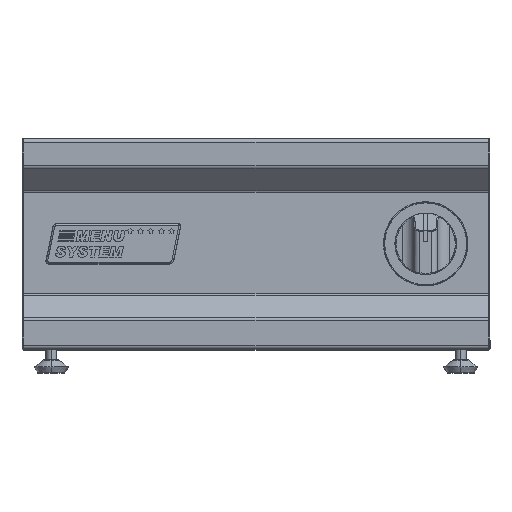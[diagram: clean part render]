
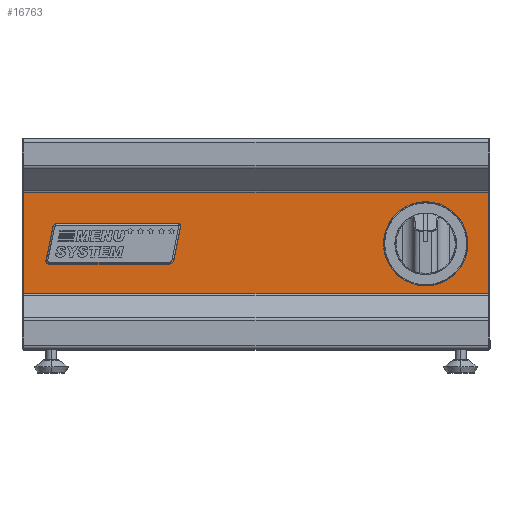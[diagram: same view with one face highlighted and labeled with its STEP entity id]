
A CAD part, top view. The second image highlights one B-rep face of the part: STEP entity #16763.
In plain terms, the highlighted planar face has unit normal (0, 0, 1).
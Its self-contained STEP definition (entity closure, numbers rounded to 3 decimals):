
#570 = CARTESIAN_POINT ( 'NONE',  ( -179.556, -104.75, 179.226 ) ) ;
#619 = CARTESIAN_POINT ( 'NONE',  ( 145., -53.99, 179.226 ) ) ;
#675 = CARTESIAN_POINT ( 'NONE',  ( -177.046, -107.26, 179.226 ) ) ;
#791 = ORIENTED_EDGE ( 'NONE', *, *, #4990, .T. ) ;
#1226 = VERTEX_POINT ( 'NONE', #15383 ) ;
#1230 = VERTEX_POINT ( 'NONE', #15213 ) ;
#1243 = VERTEX_POINT ( 'NONE', #15547 ) ;
#1252 = VERTEX_POINT ( 'NONE', #15581 ) ;
#1285 = VERTEX_POINT ( 'NONE', #15248 ) ;
#1347 = VERTEX_POINT ( 'NONE', #15311 ) ;
#1383 = VERTEX_POINT ( 'NONE', #15740 ) ;
#1412 = VERTEX_POINT ( 'NONE', #15787 ) ;
#1443 = VERTEX_POINT ( 'NONE', #15818 ) ;
#1475 = VERTEX_POINT ( 'NONE', #15854 ) ;
#1518 = VERTEX_POINT ( 'NONE', #15956 ) ;
#1825 = EDGE_LOOP ( 'NONE', ( #16303, #16302, #16309, #16297 ) ) ;
#1834 = EDGE_LOOP ( 'NONE', ( #16306, #16304 ) ) ;
#1839 = EDGE_LOOP ( 'NONE', ( #16344, #16342, #16336, #791, #16333, #16332, #16328, #16327, #16320 ) ) ;
#3533 = FACE_OUTER_BOUND ( 'NONE', #1825, .T. ) ;
#3537 = FACE_BOUND ( 'NONE', #1839, .T. ) ;
#3539 = AXIS2_PLACEMENT_3D ( 'NONE', #14604, #14605, #14606 ) ;
#3544 = FACE_BOUND ( 'NONE', #1834, .T. ) ;
#4906 = EDGE_CURVE ( 'NONE', #11687, #1252, #8319, .T. ) ;
#4918 = EDGE_CURVE ( 'NONE', #1518, #1285, #9487, .T. ) ;
#4964 = EDGE_CURVE ( 'NONE', #1475, #1226, #9757, .T. ) ;
#4966 = EDGE_CURVE ( 'NONE', #1285, #1243, #8234, .T. ) ;
#4982 = EDGE_CURVE ( 'NONE', #11725, #11687, #8264, .T. ) ;
#4990 = EDGE_CURVE ( 'NONE', #1243, #11725, #5850, .T. ) ;
#5042 = EDGE_CURVE ( 'NONE', #1252, #1383, #6042, .T. ) ;
#5047 = EDGE_CURVE ( 'NONE', #1412, #1518, #8387, .T. ) ;
#5173 = EDGE_CURVE ( 'NONE', #1383, #1443, #8212, .T. ) ;
#5207 = EDGE_CURVE ( 'NONE', #1475, #1347, #7368, .T. ) ;
#5227 = EDGE_CURVE ( 'NONE', #1443, #1412, #9019, .T. ) ;
#5243 = EDGE_CURVE ( 'NONE', #1230, #1347, #8913, .T. ) ;
#5259 = EDGE_CURVE ( 'NONE', #11704, #12671, #8354, .T. ) ;
#5270 = EDGE_CURVE ( 'NONE', #1230, #1226, #8709, .T. ) ;
#5274 = EDGE_CURVE ( 'NONE', #12671, #11704, #8307, .T. ) ;
#5542 = DIRECTION ( 'NONE',  ( 0.199, 0.98, 0. ) ) ;
#5819 = DIRECTION ( 'NONE',  ( -1., 0., 0. ) ) ;
#5848 = DIRECTION ( 'NONE',  ( -1., 0., 0. ) ) ;
#5849 = CARTESIAN_POINT ( 'NONE',  ( -638.706, -107.26, 179.226 ) ) ;
#5850 = LINE ( 'NONE', #5849, #17465 ) ;
#5884 = CARTESIAN_POINT ( 'NONE',  ( -179.505, -104.25, 179.226 ) ) ;
#5979 = DIRECTION ( 'NONE',  ( 0., 0., -1. ) ) ;
#6042 = LINE ( 'NONE', #5884, #17724 ) ;
#6120 = DIRECTION ( 'NONE',  ( -1., 0., 0. ) ) ;
#6124 = DIRECTION ( 'NONE',  ( 0., 0., -1. ) ) ;
#6128 = CARTESIAN_POINT ( 'NONE',  ( -177.046, -104.75, 179.226 ) ) ;
#6192 = CARTESIAN_POINT ( 'NONE',  ( -66.954, -75.25, 179.226 ) ) ;
#7363 = CARTESIAN_POINT ( 'NONE',  ( -638.706, -46.102, 179.226 ) ) ;
#7368 = LINE ( 'NONE', #7363, #17744 ) ;
#7370 = DIRECTION ( 'NONE',  ( -1., 0., 0. ) ) ;
#7596 = DIRECTION ( 'NONE',  ( -1., 0., 0. ) ) ;
#7949 = DIRECTION ( 'NONE',  ( 0., 0., -1. ) ) ;
#8064 = CARTESIAN_POINT ( 'NONE',  ( -169.818, -76.75, 179.226 ) ) ;
#8212 = CIRCLE ( 'NONE', #17540, 4.01 ) ;
#8234 = CIRCLE ( 'NONE', #17443, 4.01 ) ;
#8264 = CIRCLE ( 'NONE', #17563, 2.51 ) ;
#8307 = CIRCLE ( 'NONE', #17889, 36.01 ) ;
#8319 = CIRCLE ( 'NONE', #16930, 2.51 ) ;
#8354 = CIRCLE ( 'NONE', #17713, 36.01 ) ;
#8387 = CIRCLE ( 'NONE', #17222, 2.51 ) ;
#8670 = DIRECTION ( 'NONE',  ( 0., 1., 0. ) ) ;
#8673 = DIRECTION ( 'NONE',  ( 0., 0., -1. ) ) ;
#8676 = CARTESIAN_POINT ( 'NONE',  ( 145., -90., 179.226 ) ) ;
#8704 = DIRECTION ( 'NONE',  ( 1., 0., 0. ) ) ;
#8706 = CARTESIAN_POINT ( 'NONE',  ( -638.706, -132.55, 179.226 ) ) ;
#8709 = LINE ( 'NONE', #8706, #17867 ) ;
#8782 = DIRECTION ( 'NONE',  ( 0., 1., 0. ) ) ;
#8783 = DIRECTION ( 'NONE',  ( 0., 0., -1. ) ) ;
#8788 = CARTESIAN_POINT ( 'NONE',  ( 145., -90., 179.226 ) ) ;
#8904 = DIRECTION ( 'NONE',  ( 0., 1., 0. ) ) ;
#8907 = CARTESIAN_POINT ( 'NONE',  ( -198.5, -20., 179.226 ) ) ;
#8913 = LINE ( 'NONE', #8907, #17384 ) ;
#9016 = DIRECTION ( 'NONE',  ( 1., 0., 0. ) ) ;
#9018 = CARTESIAN_POINT ( 'NONE',  ( -638.706, -72.74, 179.226 ) ) ;
#9019 = LINE ( 'NONE', #9018, #17777 ) ;
#9411 = DIRECTION ( 'NONE',  ( -1., 0., 0. ) ) ;
#9418 = DIRECTION ( 'NONE',  ( 0., 0., -1. ) ) ;
#9463 = CARTESIAN_POINT ( 'NONE',  ( -177.046, -104.75, 179.226 ) ) ;
#9487 = LINE ( 'NONE', #10792, #16960 ) ;
#9709 = DIRECTION ( 'NONE',  ( 0., 0., -1. ) ) ;
#9737 = DIRECTION ( 'NONE',  ( -1., 0., 0. ) ) ;
#9757 = LINE ( 'NONE', #9820, #17408 ) ;
#9776 = DIRECTION ( 'NONE',  ( 0., -1., 0. ) ) ;
#9820 = CARTESIAN_POINT ( 'NONE',  ( 198.5, -132.55, 179.226 ) ) ;
#10250 = CARTESIAN_POINT ( 'NONE',  ( -74.182, -103.25, 179.226 ) ) ;
#10612 = DIRECTION ( 'NONE',  ( -0.199, -0.98, 0. ) ) ;
#10792 = CARTESIAN_POINT ( 'NONE',  ( -64.495, -75.75, 179.226 ) ) ;
#11687 = VERTEX_POINT ( 'NONE', #570 ) ;
#11704 = VERTEX_POINT ( 'NONE', #619 ) ;
#11725 = VERTEX_POINT ( 'NONE', #675 ) ;
#12671 = VERTEX_POINT ( 'NONE', #13554 ) ;
#13554 = CARTESIAN_POINT ( 'NONE',  ( 145., -126.01, 179.226 ) ) ;
#14603 = PLANE ( 'NONE',  #3539 ) ;
#14604 = CARTESIAN_POINT ( 'NONE',  ( -638.706, -132.55, 179.226 ) ) ;
#14605 = DIRECTION ( 'NONE',  ( 0., 0., 1. ) ) ;
#14606 = DIRECTION ( 'NONE',  ( 0., -1., 0. ) ) ;
#15213 = CARTESIAN_POINT ( 'NONE',  ( -198.5, -132.55, 179.226 ) ) ;
#15248 = CARTESIAN_POINT ( 'NONE',  ( -70.252, -104.049, 179.226 ) ) ;
#15311 = CARTESIAN_POINT ( 'NONE',  ( -198.5, -46.102, 179.226 ) ) ;
#15383 = CARTESIAN_POINT ( 'NONE',  ( 198.5, -132.55, 179.226 ) ) ;
#15547 = CARTESIAN_POINT ( 'NONE',  ( -74.182, -107.26, 179.226 ) ) ;
#15581 = CARTESIAN_POINT ( 'NONE',  ( -179.505, -104.25, 179.226 ) ) ;
#15740 = CARTESIAN_POINT ( 'NONE',  ( -173.748, -75.951, 179.226 ) ) ;
#15787 = CARTESIAN_POINT ( 'NONE',  ( -66.954, -72.74, 179.226 ) ) ;
#15818 = CARTESIAN_POINT ( 'NONE',  ( -169.818, -72.74, 179.226 ) ) ;
#15854 = CARTESIAN_POINT ( 'NONE',  ( 198.5, -46.102, 179.226 ) ) ;
#15956 = CARTESIAN_POINT ( 'NONE',  ( -64.495, -75.75, 179.226 ) ) ;
#16297 = ORIENTED_EDGE ( 'NONE', *, *, #5243, .F. ) ;
#16302 = ORIENTED_EDGE ( 'NONE', *, *, #4964, .F. ) ;
#16303 = ORIENTED_EDGE ( 'NONE', *, *, #5270, .T. ) ;
#16304 = ORIENTED_EDGE ( 'NONE', *, *, #5274, .T. ) ;
#16306 = ORIENTED_EDGE ( 'NONE', *, *, #5259, .T. ) ;
#16309 = ORIENTED_EDGE ( 'NONE', *, *, #5207, .T. ) ;
#16320 = ORIENTED_EDGE ( 'NONE', *, *, #5227, .T. ) ;
#16327 = ORIENTED_EDGE ( 'NONE', *, *, #5173, .T. ) ;
#16328 = ORIENTED_EDGE ( 'NONE', *, *, #5042, .T. ) ;
#16332 = ORIENTED_EDGE ( 'NONE', *, *, #4906, .T. ) ;
#16333 = ORIENTED_EDGE ( 'NONE', *, *, #4982, .T. ) ;
#16336 = ORIENTED_EDGE ( 'NONE', *, *, #4966, .T. ) ;
#16342 = ORIENTED_EDGE ( 'NONE', *, *, #4918, .T. ) ;
#16344 = ORIENTED_EDGE ( 'NONE', *, *, #5047, .T. ) ;
#16763 = ADVANCED_FACE ( 'NONE', ( #3537, #3544, #3533 ), #14603, .T. ) ;
#16930 = AXIS2_PLACEMENT_3D ( 'NONE', #9463, #9418, #9411 ) ;
#16960 = VECTOR ( 'NONE', #10612, 1000. ) ;
#17222 = AXIS2_PLACEMENT_3D ( 'NONE', #6192, #5979, #5819 ) ;
#17384 = VECTOR ( 'NONE', #8904, 1000. ) ;
#17408 = VECTOR ( 'NONE', #9776, 1000. ) ;
#17443 = AXIS2_PLACEMENT_3D ( 'NONE', #10250, #9709, #9737 ) ;
#17465 = VECTOR ( 'NONE', #5848, 1000. ) ;
#17540 = AXIS2_PLACEMENT_3D ( 'NONE', #8064, #7949, #7596 ) ;
#17563 = AXIS2_PLACEMENT_3D ( 'NONE', #6128, #6124, #6120 ) ;
#17713 = AXIS2_PLACEMENT_3D ( 'NONE', #8788, #8783, #8782 ) ;
#17724 = VECTOR ( 'NONE', #5542, 1000. ) ;
#17744 = VECTOR ( 'NONE', #7370, 1000. ) ;
#17777 = VECTOR ( 'NONE', #9016, 1000. ) ;
#17867 = VECTOR ( 'NONE', #8704, 1000. ) ;
#17889 = AXIS2_PLACEMENT_3D ( 'NONE', #8676, #8673, #8670 ) ;
